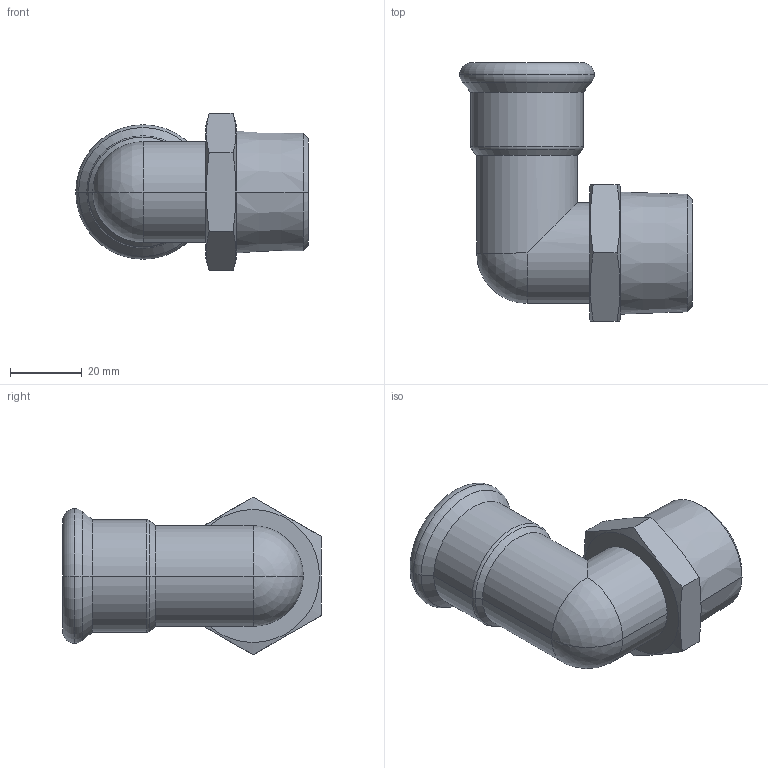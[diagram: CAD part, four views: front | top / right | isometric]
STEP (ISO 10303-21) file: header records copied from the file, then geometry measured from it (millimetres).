
FILE_DESCRIPTION(('OneSpaceDesigner STEP Export'),'2;1');
FILE_NAME('R2728 28xR1.stp','2010-06-10T13:20:20',(''),(''),'OneSpace Designer STEP processor for AP214 (Solid Model)','OneSpace Modeling 15.00A 14-Mar-2007 (C) CoCreate Software GmbH','');
FILE_SCHEMA(('AUTOMOTIVE_DESIGN { 1 0 10303 214 1 1 1 1 }'));
Length unit declared in the file: millimetre
Products named in the file (2): R2728_28xR1
Assembly tree (1 placements, depth 2):
  R2728_28xR1
    R2728_28xR1
Bounding box: 64.72 x 72 x 43.88 mm (x, y, z)
Volume: 23052 mm3; surface area: 21103.2 mm2
Topology: 1 solids, 1 shells, 128 faces, 330 edges, 212 vertices
Faces by surface type: plane 68, cylinder 36, cone 12, torus 6, sphere 6
Entity records: 4571 total; most frequent: CARTESIAN_POINT 1658, ORIENTED_EDGE 652, DIRECTION 512, EDGE_CURVE 326, VERTEX_POINT 212, VECTOR 184, LINE 184, AXIS2_PLACEMENT_3D 164
